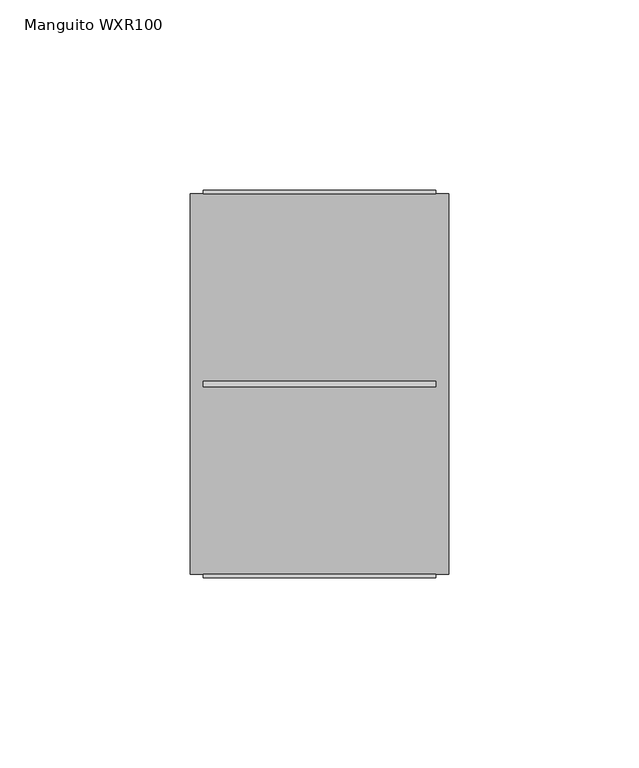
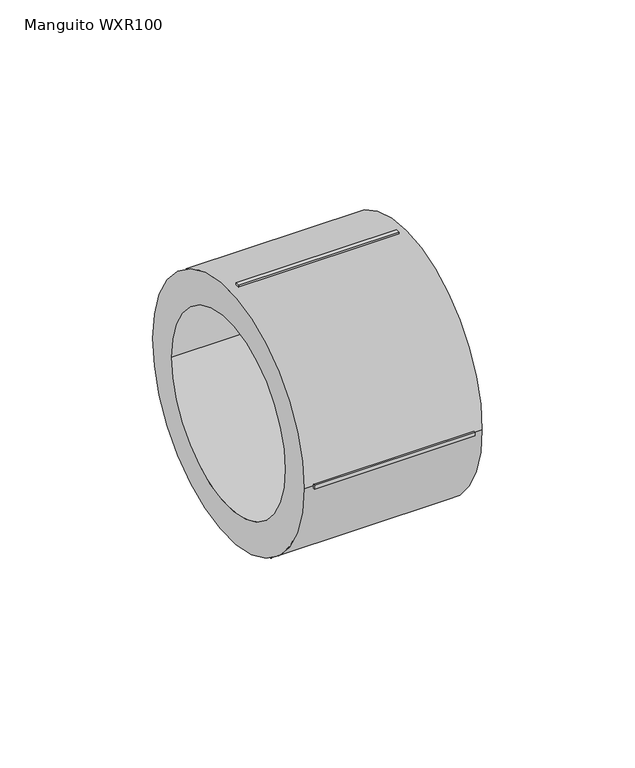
"""IFC4 building model written with IfcOpenShell, lengths in millimetres: pipe fitting geometry, EGB_VASEN_ PPR_Manguito WXR100 : Manguito WXR100."""

from ifc_helpers import new_model, si_unit, point, frame, origin, origin_2d, place, context, project, spatial, polyline, circle_curve, trimmed, segment, composite_curve, outline, extrude, source, transform, mapped, element, save


def manguito_wxr100_2db03617(model_context):
    return source(origin(), model_context, "Body", "SweptSolid", [
        extrude(outline(composite_curve([segment(trimmed(circle_curve(origin_2d(), 50.0), [point((-50.0, 0.0))], [point((50.0, 0.0))], False, "CARTESIAN"), True, "CONTINUOUS"), segment(trimmed(circle_curve(origin_2d(), 50.0), [point((50.0, 0.0))], [point((-50.0, 0.0))], False, "CARTESIAN"), True, "CONTINUOUS")], self_intersect=False), holes=[composite_curve([segment(trimmed(circle_curve(origin_2d(), 37.5), [point((-37.5, 0.0))], [point((37.5, 0.0))], True, "CARTESIAN"), True, "CONTINUOUS"), segment(trimmed(circle_curve(origin_2d(), 37.5), [point((37.5, 0.0))], [point((-37.5, 0.0))], True, "CARTESIAN"), True, "CONTINUOUS")], self_intersect=False)]), frame((-34.0, 0.0, 0.0), z_axis=(1.0, 0.0, 0.0), x_axis=(0.0, 1.0, 0.0)), (0.0, 0.0, 1.0), 68.0),
        extrude(outline(polyline([(30.6, 0.75), (30.6, -0.75), (-30.6, -0.75), (-30.6, 0.75), (30.6, 0.75)])), frame((0.0, 0.0, 49.0), z_axis=(0.0, 0.0, 1.0), x_axis=(1.0, 0.0, 0.0)), (0.0, 0.0, 1.0), 2.0),
        extrude(outline(polyline([(30.6, 0.75), (30.6, -0.75), (-30.6, -0.75), (-30.6, 0.75), (30.6, 0.75)])), frame((0.0, 0.0, -51.0), z_axis=(0.0, 0.0, 1.0), x_axis=(1.0, 0.0, 0.0)), (0.0, 0.0, 1.0), 2.0),
        extrude(outline(polyline([(30.6, 51.0), (30.6, 49.0), (-30.6, 49.0), (-30.6, 51.0), (30.6, 51.0)])), frame((0.0, 0.0, -0.75), z_axis=(0.0, 0.0, 1.0), x_axis=(1.0, 0.0, 0.0)), (0.0, 0.0, 1.0), 1.5),
        extrude(outline(polyline([(30.6, -49.0), (30.6, -51.0), (-30.6, -51.0), (-30.6, -49.0), (30.6, -49.0)])), frame((0.0, 0.0, -0.75), z_axis=(0.0, 0.0, 1.0), x_axis=(1.0, 0.0, 0.0)), (0.0, 0.0, 1.0), 1.5),
    ])


if __name__ == "__main__":
    model = new_model("IFC4")
    model_context = context("Model", 3, world=origin())
    ifc_project = project(units=[si_unit("LENGTHUNIT", "METRE", prefix="MILLI")], contexts=[model_context])
    site = spatial("IfcSite", under=ifc_project)
    building = spatial("IfcBuilding", under=site)
    placement = place(None, origin())
    manguito_wxr100_shape = manguito_wxr100_2db03617(model_context)
    element("IfcPipeFitting", 1, ObjectType="EGB_VASEN_ PPR_Manguito WXR100 : Manguito WXR100", at=placement, inside=building, context=model_context, shape_type="MappedRepresentation", body=[
        mapped(manguito_wxr100_shape, transform((0.0, 0.0, 0.0), x_axis=(1.0, 0.0, 0.0), y_axis=(0.0, 1.0, 0.0), z_axis=(0.0, 0.0, 1.0))),
    ])
    save(model, "model.ifc")
